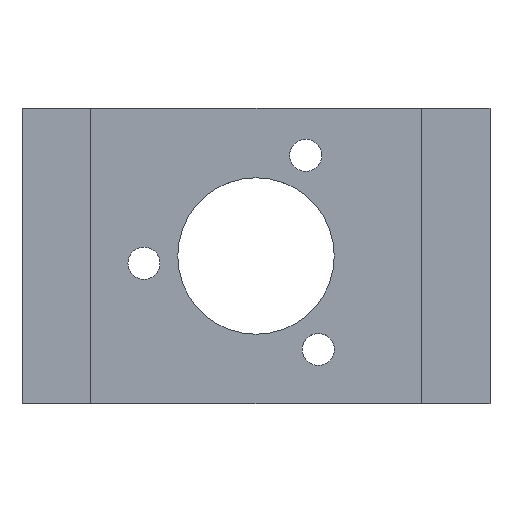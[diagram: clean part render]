
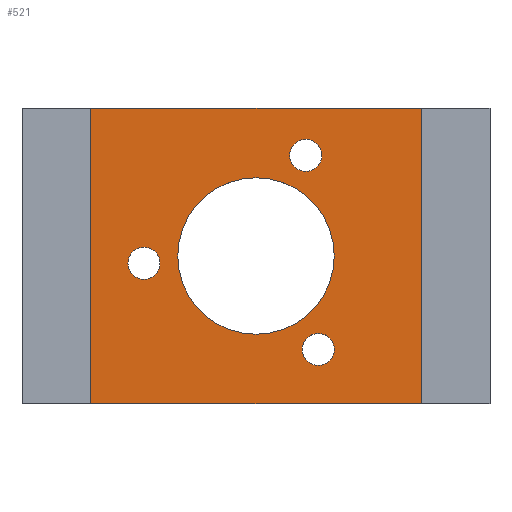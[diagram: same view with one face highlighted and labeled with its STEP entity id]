
A CAD part, top view. The second image highlights one B-rep face of the part: STEP entity #521.
In plain terms, the highlighted planar face has unit normal (0, 0, 1).
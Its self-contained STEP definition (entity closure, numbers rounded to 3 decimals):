
#7 = ORIENTED_EDGE ( 'NONE', *, *, #782, .F. ) ;
#13 = DIRECTION ( 'NONE',  ( 0., 0., 1. ) ) ;
#19 = VERTEX_POINT ( 'NONE', #214 ) ;
#27 = ORIENTED_EDGE ( 'NONE', *, *, #636, .T. ) ;
#71 = DIRECTION ( 'NONE',  ( 1., 0., 0. ) ) ;
#89 = EDGE_CURVE ( 'NONE', #211, #776, #282, .T. ) ;
#102 = DIRECTION ( 'NONE',  ( 0., 0., 1. ) ) ;
#109 = EDGE_LOOP ( 'NONE', ( #778, #7 ) ) ;
#111 = AXIS2_PLACEMENT_3D ( 'NONE', #539, #115, #677 ) ;
#115 = DIRECTION ( 'NONE',  ( 0., 0., 1. ) ) ;
#118 = DIRECTION ( 'NONE',  ( 1., 0., 0. ) ) ;
#122 = DIRECTION ( 'NONE',  ( 1., 0., 0. ) ) ;
#131 = ORIENTED_EDGE ( 'NONE', *, *, #89, .F. ) ;
#133 = CARTESIAN_POINT ( 'NONE',  ( 0., 0., 3.8 ) ) ;
#146 = VERTEX_POINT ( 'NONE', #615 ) ;
#147 = CARTESIAN_POINT ( 'NONE',  ( -21.1, -18.85, 3.8 ) ) ;
#152 = CIRCLE ( 'NONE', #320, 2.05 ) ;
#172 = CARTESIAN_POINT ( 'NONE',  ( -10., 0., 3.8 ) ) ;
#178 = DIRECTION ( 'NONE',  ( 0., 0., 1. ) ) ;
#181 = EDGE_CURVE ( 'NONE', #146, #415, #739, .T. ) ;
#210 = DIRECTION ( 'NONE',  ( 0., -1., 0. ) ) ;
#211 = VERTEX_POINT ( 'NONE', #172 ) ;
#214 = CARTESIAN_POINT ( 'NONE',  ( 8.413, 12.862, 3.8 ) ) ;
#217 = AXIS2_PLACEMENT_3D ( 'NONE', #749, #178, #808 ) ;
#226 = CARTESIAN_POINT ( 'NONE',  ( -14.32, -0.921, 3.8 ) ) ;
#237 = VERTEX_POINT ( 'NONE', #252 ) ;
#245 = AXIS2_PLACEMENT_3D ( 'NONE', #482, #737, #118 ) ;
#252 = CARTESIAN_POINT ( 'NONE',  ( 21.1, 18.85, 3.8 ) ) ;
#255 = PLANE ( 'NONE',  #284 ) ;
#266 = VERTEX_POINT ( 'NONE', #546 ) ;
#268 = CARTESIAN_POINT ( 'NONE',  ( -21.1, 18.85, 3.8 ) ) ;
#270 = AXIS2_PLACEMENT_3D ( 'NONE', #651, #400, #790 ) ;
#277 = VERTEX_POINT ( 'NONE', #498 ) ;
#282 = CIRCLE ( 'NONE', #270, 10. ) ;
#284 = AXIS2_PLACEMENT_3D ( 'NONE', #133, #13, #500 ) ;
#286 = CARTESIAN_POINT ( 'NONE',  ( 4.313, 12.862, 3.8 ) ) ;
#290 = DIRECTION ( 'NONE',  ( 0., 0., 1. ) ) ;
#302 = ORIENTED_EDGE ( 'NONE', *, *, #574, .F. ) ;
#320 = AXIS2_PLACEMENT_3D ( 'NONE', #520, #102, #728 ) ;
#327 = EDGE_CURVE ( 'NONE', #526, #266, #685, .T. ) ;
#329 = ORIENTED_EDGE ( 'NONE', *, *, #662, .F. ) ;
#337 = FACE_BOUND ( 'NONE', #468, .T. ) ;
#341 = VERTEX_POINT ( 'NONE', #627 ) ;
#343 = CARTESIAN_POINT ( 'NONE',  ( 21.1, 18.85, 3.8 ) ) ;
#383 = CARTESIAN_POINT ( 'NONE',  ( -21.1, 18.85, 3.8 ) ) ;
#388 = DIRECTION ( 'NONE',  ( -1., 0., 0. ) ) ;
#393 = ORIENTED_EDGE ( 'NONE', *, *, #435, .F. ) ;
#400 = DIRECTION ( 'NONE',  ( 0., 0., 1. ) ) ;
#415 = VERTEX_POINT ( 'NONE', #705 ) ;
#434 = ORIENTED_EDGE ( 'NONE', *, *, #811, .F. ) ;
#435 = EDGE_CURVE ( 'NONE', #415, #146, #641, .T. ) ;
#436 = ORIENTED_EDGE ( 'NONE', *, *, #525, .T. ) ;
#440 = VECTOR ( 'NONE', #388, 1000. ) ;
#449 = DIRECTION ( 'NONE',  ( 1., 0., 0. ) ) ;
#454 = CARTESIAN_POINT ( 'NONE',  ( -12.27, -0.921, 3.8 ) ) ;
#464 = AXIS2_PLACEMENT_3D ( 'NONE', #674, #483, #122 ) ;
#468 = EDGE_LOOP ( 'NONE', ( #434, #131 ) ) ;
#472 = EDGE_CURVE ( 'NONE', #266, #341, #576, .T. ) ;
#478 = CARTESIAN_POINT ( 'NONE',  ( 10., 0., 3.8 ) ) ;
#481 = EDGE_LOOP ( 'NONE', ( #329, #302 ) ) ;
#482 = CARTESIAN_POINT ( 'NONE',  ( 6.363, 12.862, 3.8 ) ) ;
#483 = DIRECTION ( 'NONE',  ( 0., 0., 1. ) ) ;
#491 = AXIS2_PLACEMENT_3D ( 'NONE', #748, #551, #555 ) ;
#496 = FACE_BOUND ( 'NONE', #481, .T. ) ;
#498 = CARTESIAN_POINT ( 'NONE',  ( -16.37, -0.921, 3.8 ) ) ;
#500 = DIRECTION ( 'NONE',  ( 1., 0., 0. ) ) ;
#519 = VECTOR ( 'NONE', #71, 1000. ) ;
#520 = CARTESIAN_POINT ( 'NONE',  ( -14.32, -0.921, 3.8 ) ) ;
#521 = ADVANCED_FACE ( 'NONE', ( #642, #496, #629, #337, #683 ), #255, .T. ) ;
#525 = EDGE_CURVE ( 'NONE', #237, #526, #754, .T. ) ;
#526 = VERTEX_POINT ( 'NONE', #268 ) ;
#539 = CARTESIAN_POINT ( 'NONE',  ( 6.363, 12.862, 3.8 ) ) ;
#546 = CARTESIAN_POINT ( 'NONE',  ( -21.1, -18.85, 3.8 ) ) ;
#550 = ORIENTED_EDGE ( 'NONE', *, *, #327, .T. ) ;
#551 = DIRECTION ( 'NONE',  ( 0., 0., 1. ) ) ;
#555 = DIRECTION ( 'NONE',  ( 1., 0., 0. ) ) ;
#565 = ORIENTED_EDGE ( 'NONE', *, *, #472, .T. ) ;
#574 = EDGE_CURVE ( 'NONE', #277, #682, #741, .T. ) ;
#576 = LINE ( 'NONE', #147, #519 ) ;
#611 = VECTOR ( 'NONE', #210, 1000. ) ;
#615 = CARTESIAN_POINT ( 'NONE',  ( 10.008, -11.941, 3.8 ) ) ;
#625 = CIRCLE ( 'NONE', #217, 10. ) ;
#627 = CARTESIAN_POINT ( 'NONE',  ( 21.1, -18.85, 3.8 ) ) ;
#629 = FACE_BOUND ( 'NONE', #697, .T. ) ;
#636 = EDGE_CURVE ( 'NONE', #341, #237, #780, .T. ) ;
#641 = CIRCLE ( 'NONE', #491, 2.05 ) ;
#642 = FACE_BOUND ( 'NONE', #109, .T. ) ;
#643 = CIRCLE ( 'NONE', #111, 2.05 ) ;
#650 = VERTEX_POINT ( 'NONE', #286 ) ;
#651 = CARTESIAN_POINT ( 'NONE',  ( 0., 0., 3.8 ) ) ;
#656 = AXIS2_PLACEMENT_3D ( 'NONE', #226, #290, #449 ) ;
#658 = DIRECTION ( 'NONE',  ( 0., 1., 0. ) ) ;
#662 = EDGE_CURVE ( 'NONE', #682, #277, #152, .T. ) ;
#674 = CARTESIAN_POINT ( 'NONE',  ( 7.958, -11.941, 3.8 ) ) ;
#675 = EDGE_LOOP ( 'NONE', ( #550, #565, #27, #436 ) ) ;
#677 = DIRECTION ( 'NONE',  ( 1., 0., 0. ) ) ;
#682 = VERTEX_POINT ( 'NONE', #454 ) ;
#683 = FACE_OUTER_BOUND ( 'NONE', #675, .T. ) ;
#685 = LINE ( 'NONE', #383, #611 ) ;
#687 = ORIENTED_EDGE ( 'NONE', *, *, #181, .F. ) ;
#697 = EDGE_LOOP ( 'NONE', ( #687, #393 ) ) ;
#705 = CARTESIAN_POINT ( 'NONE',  ( 5.908, -11.941, 3.8 ) ) ;
#712 = CIRCLE ( 'NONE', #245, 2.05 ) ;
#728 = DIRECTION ( 'NONE',  ( 1., 0., 0. ) ) ;
#737 = DIRECTION ( 'NONE',  ( 0., 0., 1. ) ) ;
#739 = CIRCLE ( 'NONE', #464, 2.05 ) ;
#740 = EDGE_CURVE ( 'NONE', #19, #650, #712, .T. ) ;
#741 = CIRCLE ( 'NONE', #656, 2.05 ) ;
#748 = CARTESIAN_POINT ( 'NONE',  ( 7.958, -11.941, 3.8 ) ) ;
#749 = CARTESIAN_POINT ( 'NONE',  ( 0., 0., 3.8 ) ) ;
#754 = LINE ( 'NONE', #764, #440 ) ;
#764 = CARTESIAN_POINT ( 'NONE',  ( -21.1, 18.85, 3.8 ) ) ;
#776 = VERTEX_POINT ( 'NONE', #478 ) ;
#778 = ORIENTED_EDGE ( 'NONE', *, *, #740, .F. ) ;
#780 = LINE ( 'NONE', #343, #796 ) ;
#782 = EDGE_CURVE ( 'NONE', #650, #19, #643, .T. ) ;
#790 = DIRECTION ( 'NONE',  ( 1., 0., 0. ) ) ;
#796 = VECTOR ( 'NONE', #658, 1000. ) ;
#808 = DIRECTION ( 'NONE',  ( 1., 0., 0. ) ) ;
#811 = EDGE_CURVE ( 'NONE', #776, #211, #625, .T. ) ;
